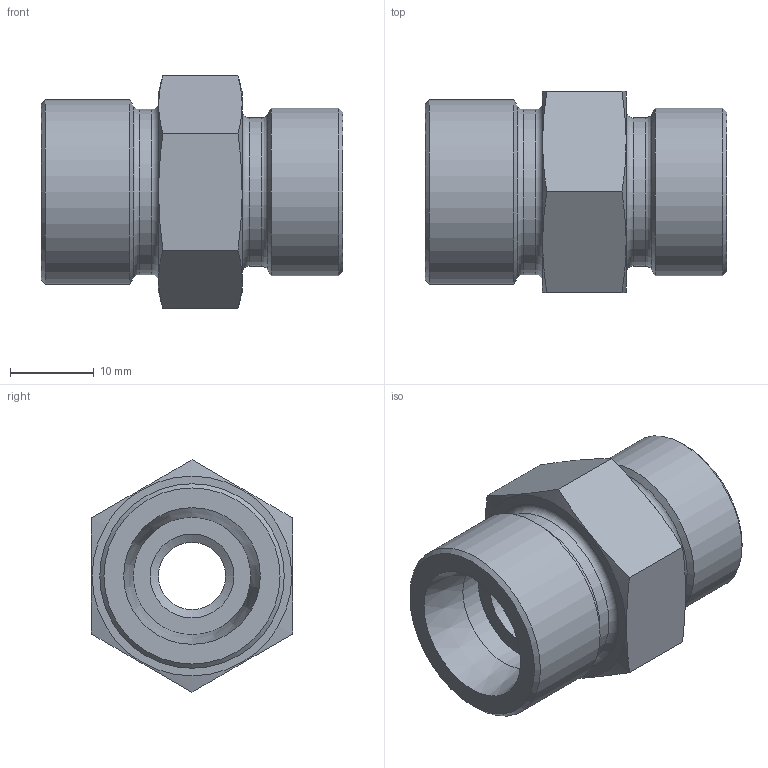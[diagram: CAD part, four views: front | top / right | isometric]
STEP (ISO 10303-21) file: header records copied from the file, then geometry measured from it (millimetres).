
FILE_DESCRIPTION( ( 'Unknown' ), '1' );
FILE_NAME( 'C:/Users/p.nanko/Desktop/3D SR/XGR1412S.stp', 'Unknown', ( 'Peter Nanko' ), ( 'Armaturen Arndt' ), 'PSStep 14.0', 'Solid Edge ST4', ' ' );
FILE_SCHEMA( ( 'AUTOMOTIVE_DESIGN { 1 0 10303 214 1 1 1 1 }' ) );
Length unit declared in the file: millimetre
Products named in the file (1): 1
Bounding box: 36 x 24 x 27.71 mm (x, y, z)
Volume: 9895.5 mm3; surface area: 4676.3 mm2
Topology: 1 solids, 1 shells, 33 faces, 70 edges, 43 vertices
Faces by surface type: plane 12, cone 9, cylinder 8, torus 4
Full cylindrical faces by diameter (mm): 8 x1, 10 x1, 12 x1, 14 x1, 17.7 x1, 19.7 x1, 20 x1, 22 x1
Entity records: 1092 total; most frequent: CARTESIAN_POINT 216, DIRECTION 126, ORIENTED_EDGE 88, AXIS2_PLACEMENT_3D 60, EDGE_LOOP 60, FACE_OUTER_BOUND 45, EDGE_CURVE 44, VERTEX_POINT 38
